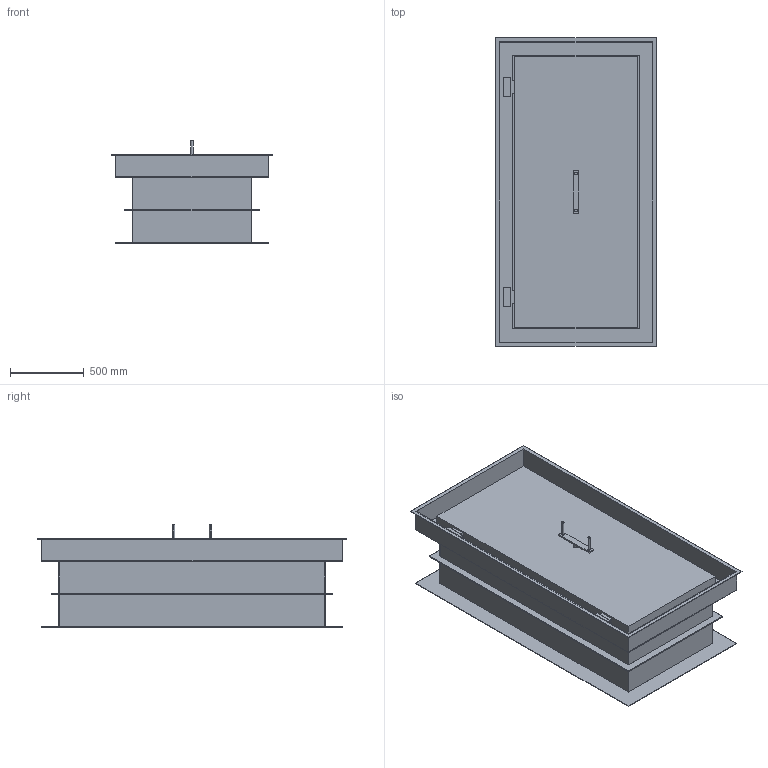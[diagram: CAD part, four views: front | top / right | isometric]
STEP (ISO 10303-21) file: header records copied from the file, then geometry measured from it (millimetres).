
FILE_DESCRIPTION((''),'2;1');
FILE_NAME('52264060','2024-07-11T13:32:04',('ka'),('HUBER SE'),'CREO PARAMETRIC BY PTC INC, 2022162','CREO PARAMETRIC BY PTC INC, 2022162','');
FILE_SCHEMA(('AUTOMOTIVE_DESIGN { 1 0 10303 214 1 1 1 1 }'));
Length unit declared in the file: millimetre
Products named in the file (1): 52264060
Bounding box: 1090 x 2090 x 695 mm (x, y, z)
Volume: 161714460.1 mm3; surface area: 14409987.5 mm2
Topology: 2 solids, 2 shells, 109 faces, 357 edges, 269 vertices
Faces by surface type: plane 97, cylinder 12
Entity records: 5071 total; most frequent: CARTESIAN_POINT 804, DIRECTION 595, ORIENTED_EDGE 512, VECTOR 292, LINE 292, EDGE_CURVE 256, VERTEX_POINT 168, AXIS2_PLACEMENT_3D 150
